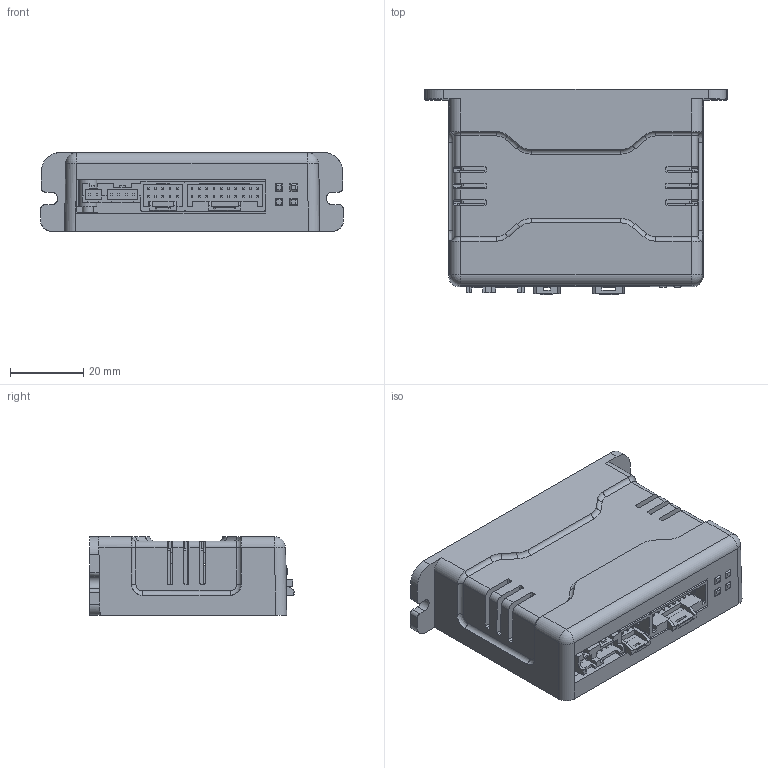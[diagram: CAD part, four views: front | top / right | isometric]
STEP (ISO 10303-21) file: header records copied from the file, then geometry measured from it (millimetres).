
FILE_DESCRIPTION(/* description */ (''),/* implementation_level */ '2;1');
FILE_NAME(/* name */ '\\EMN0D5F01\rp_inventor\RP Mechanical Design\Wiley\Updated Models\ECLD-2DC-SD.stp',/* time_stamp */ '2016-10-27T14:15:53-07:00',/* author */ ('JDB'),/* organization */ ('Parker Hannifin Corp'),/* preprocessor_version */ 'ST-DEVELOPER v15.2',/* originating_system */ 'Autodesk Inventor 2014',/* authorisation */ '');
FILE_SCHEMA (('CONFIG_CONTROL_DESIGN'));
Length unit declared in the file: inch
Products named in the file (1): ECLD-2DC-SD_sw
Bounding box: 82.84 x 56.07 x 21.5 mm (x, y, z)
Volume: 29365.8 mm3; surface area: 28309.7 mm2
Topology: 2 solids, 3 shells, 1597 faces, 4057 edges, 2546 vertices
Faces by surface type: plane 1302, cylinder 234, bspline 26, torus 20, cone 9, sphere 6
Full cylindrical faces by diameter (mm): 0.7 x9, 1 x2, 1.5 x3, 3 x2, 3.2 x2, 4 x3, 5.5 x1
Entity records: 48253 total; most frequent: CARTESIAN_POINT 9835, ORIENTED_EDGE 7989, DIRECTION 7616, EDGE_CURVE 3999, LINE 3446, VECTOR 3446, VERTEX_POINT 2540, AXIS2_PLACEMENT_3D 2085
